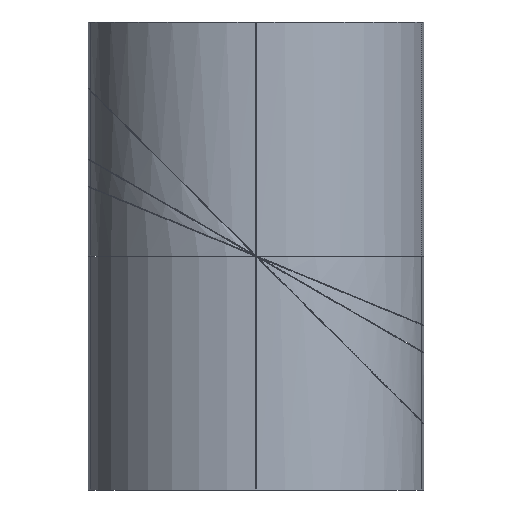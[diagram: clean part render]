
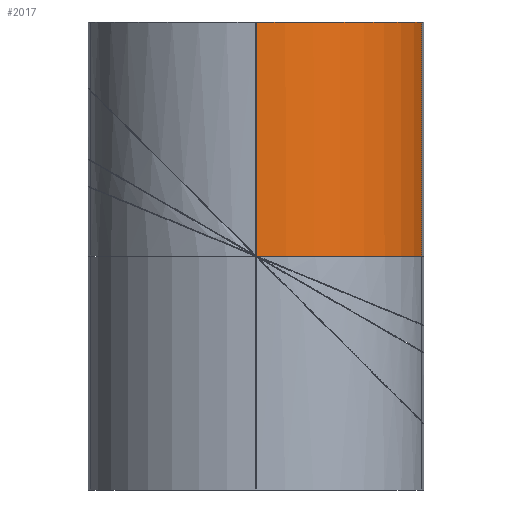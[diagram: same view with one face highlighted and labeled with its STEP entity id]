
A CAD part, front view. The second image highlights one B-rep face of the part: STEP entity #2017.
In plain terms, the highlighted cylindrical face has radius 108 mm (diameter 216 mm), a partial arc.
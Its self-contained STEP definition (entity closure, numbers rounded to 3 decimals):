
#47=CIRCLE($,#2194,108.);
#48=CIRCLE($,#2195,108.);
#81=CYLINDRICAL_SURFACE($,#2192,108.);
#148=FACE_OUTER_BOUND($,#263,.T.);
#263=EDGE_LOOP($,(#1418,#1419,#1420,#1421,#1422));
#369=ELLIPSE($,#2193,116.898,108.);
#496=LINE($,#3198,#644);
#506=LINE($,#3227,#654);
#644=VECTOR($,#2553,149.833);
#654=VECTOR($,#2575,150.);
#802=VERTEX_POINT($,#3196);
#803=VERTEX_POINT($,#3197);
#814=VERTEX_POINT($,#3222);
#815=VERTEX_POINT($,#3224);
#816=VERTEX_POINT($,#3226);
#1025=EDGE_CURVE($,#802,#803,#496,.T.);
#1037=EDGE_CURVE($,#803,#814,#369,.T.);
#1038=EDGE_CURVE($,#814,#815,#47,.T.);
#1039=EDGE_CURVE($,#815,#816,#506,.T.);
#1040=EDGE_CURVE($,#816,#802,#48,.T.);
#1418=ORIENTED_EDGE($,*,*,#1025,.T.);
#1419=ORIENTED_EDGE($,*,*,#1037,.T.);
#1420=ORIENTED_EDGE($,*,*,#1038,.T.);
#1421=ORIENTED_EDGE($,*,*,#1039,.T.);
#1422=ORIENTED_EDGE($,*,*,#1040,.T.);
#2017=ADVANCED_FACE($,(#148),#81,.T.);
#2192=AXIS2_PLACEMENT_3D($,#3221,#2569,#2570);
#2193=AXIS2_PLACEMENT_3D($,#3223,#2571,#2572);
#2194=AXIS2_PLACEMENT_3D($,#3225,#2573,#2574);
#2195=AXIS2_PLACEMENT_3D($,#3228,#2576,#2577);
#2553=DIRECTION($,(0.,0.,-1.));
#2569=DIRECTION('center_axis',(0.,0.,1.));
#2570=DIRECTION('ref_axis',(-1.,0.,0.));
#2571=DIRECTION('center_axis',(0.383,0.,0.924));
#2572=DIRECTION('ref_axis',(-0.924,0.,0.383));
#2573=DIRECTION('center_axis',(0.,0.,1.));
#2574=DIRECTION('ref_axis',(-1.,0.,0.));
#2575=DIRECTION($,(0.,0.,1.));
#2576=DIRECTION('center_axis',(0.,0.,-1.));
#2577=DIRECTION('ref_axis',(-1.,0.,0.));
#3196=CARTESIAN_POINT('',(0.25,-108.,150.));
#3197=CARTESIAN_POINT('',(0.25,-108.,0.167));
#3198=CARTESIAN_POINT($,(0.25,-108.,0.));
#3221=CARTESIAN_POINT('Origin',(0.,0.,0.));
#3222=CARTESIAN_POINT('',(0.653,-107.998,0.));
#3223=CARTESIAN_POINT('Origin',(0.,0.,0.271));
#3224=CARTESIAN_POINT('',(106.132,-20.,0.));
#3225=CARTESIAN_POINT('Origin',(0.,0.,0.));
#3226=CARTESIAN_POINT('',(106.132,-20.,150.));
#3227=CARTESIAN_POINT($,(106.132,-20.,0.));
#3228=CARTESIAN_POINT('Origin',(0.,0.,150.));
